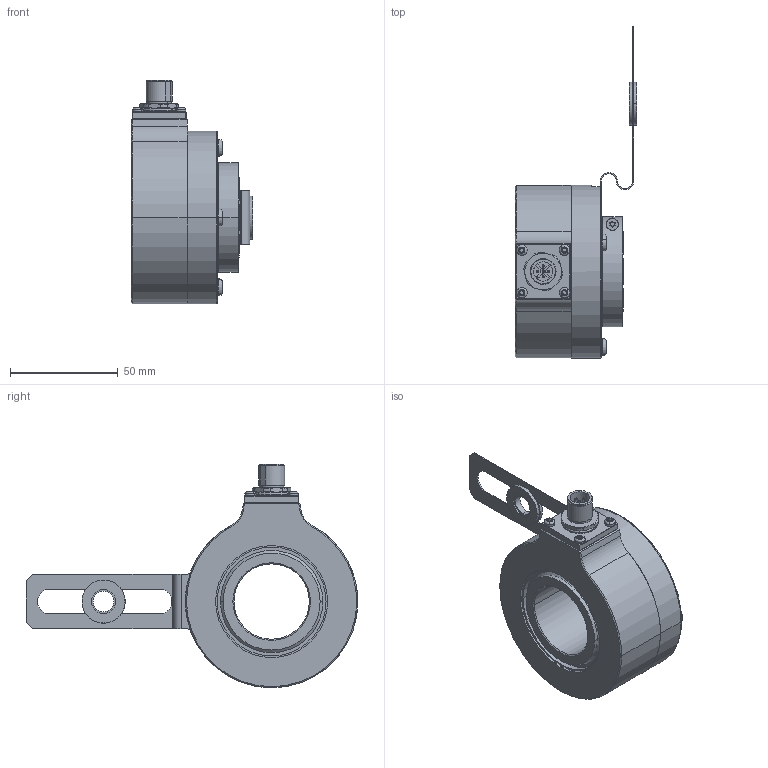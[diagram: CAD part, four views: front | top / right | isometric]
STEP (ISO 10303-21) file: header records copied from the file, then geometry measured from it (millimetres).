
FILE_DESCRIPTION (( 'STEP AP203' ), '1' );
FILE_NAME ('K80I.OXX.XXXXX.XH1D835.6XRC3.step', '2025-12-09T09:04:04', ( '' ), ( '' ), 'SwSTEP 2.0', 'SolidWorks 2021', '' );
FILE_SCHEMA (( 'CONFIG_CONTROL_DESIGN' ));
Length unit declared in the file: millimetre
Products named in the file (1): K80I.OXX.XXXXX.XH1D835.6XRC3
Bounding box: 56.5 x 154.07 x 103.88 mm (x, y, z)
Surface area: 65974.6 mm2 (no closed solid volume)
Topology: 0 solids, 13 shells, 580 faces, 1470 edges, 934 vertices
Faces by surface type: cylinder 290, plane 203, cone 57, bspline 30
Entity records: 20239 total; most frequent: CARTESIAN_POINT 5934, DIRECTION 3121, ORIENTED_EDGE 2908, EDGE_CURVE 1462, AXIS2_PLACEMENT_3D 1233, VERTEX_POINT 934, CIRCLE 682, EDGE_LOOP 662
